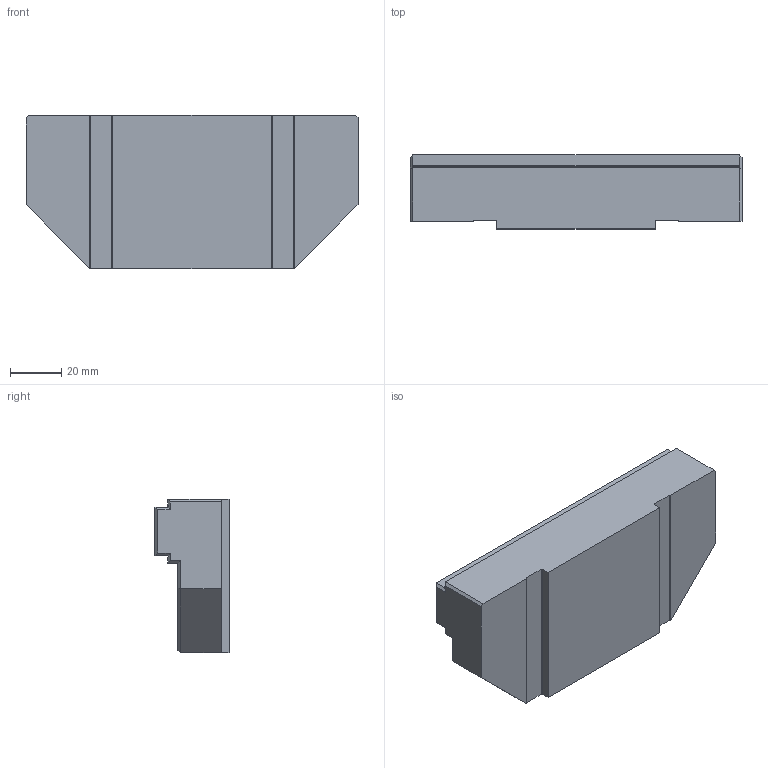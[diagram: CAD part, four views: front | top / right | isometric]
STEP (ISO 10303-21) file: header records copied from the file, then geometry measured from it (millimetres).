
FILE_DESCRIPTION (( 'STEP AP203' ), '1' );
FILE_NAME ('05-0502.STEP', '2021-07-19T17:19:43', ( '' ), ( '' ), 'SwSTEP 2.0', 'SolidWorks 2020', '' );
FILE_SCHEMA (( 'CONFIG_CONTROL_DESIGN' ));
Length unit declared in the file: inch
Products named in the file (1): 05-0502
Bounding box: 130 x 29 x 60 mm (x, y, z)
Volume: 157797.2 mm3; surface area: 24195.2 mm2
Topology: 1 solids, 3 shells, 56 faces, 134 edges, 84 vertices
Faces by surface type: plane 45, cylinder 11
Entity records: 1657 total; most frequent: CARTESIAN_POINT 317, ORIENTED_EDGE 268, DIRECTION 246, EDGE_CURVE 134, LINE 108, VECTOR 108, VERTEX_POINT 84, AXIS2_PLACEMENT_3D 69
